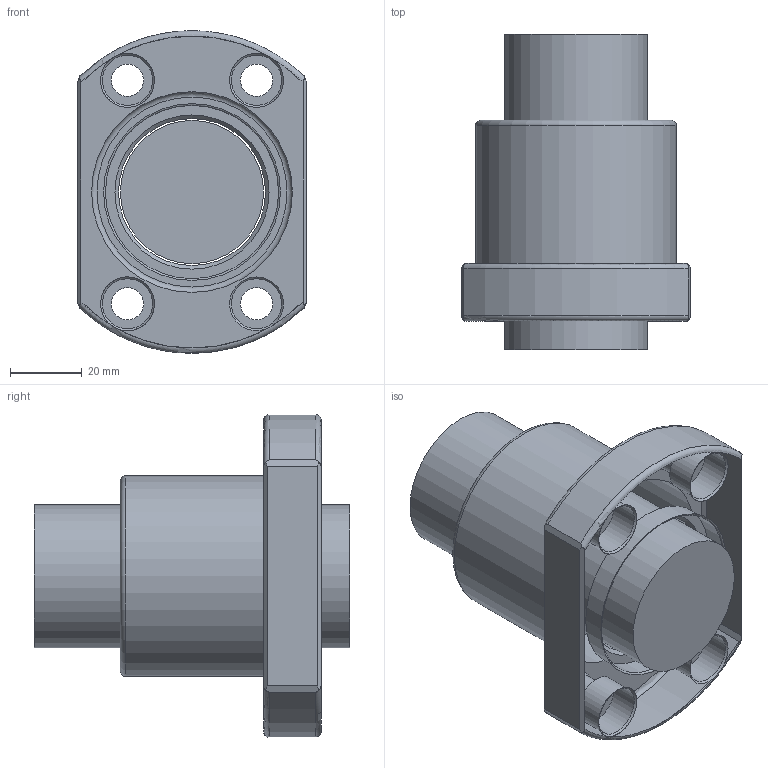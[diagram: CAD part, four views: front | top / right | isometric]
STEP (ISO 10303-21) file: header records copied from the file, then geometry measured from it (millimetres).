
FILE_DESCRIPTION(/* description */ (''),/* implementation_level */ '2;1');
FILE_NAME(/* name */ '4005T4D.prt.step',/* time_stamp */ '2008-12-05T09:36:36+08:00',/* author */ (''),/* organization */ (''),/* preprocessor_version */ 'ST-DEVELOPER v11',/* originating_system */ 'SIEMENS UGS NX 6.0',/* authorisation */ '');
FILE_SCHEMA (('AUTOMOTIVE_DESIGN { 1 0 10303 214 1 1 1 1 }'));
Length unit declared in the file: millimetre
Products named in the file (1): 4005T4D
Bounding box: 64 x 88 x 89.94 mm (x, y, z)
Volume: 204203.4 mm3; surface area: 41301.3 mm2
Topology: 2 solids, 2 shells, 53 faces, 130 edges, 84 vertices
Faces by surface type: plane 21, cylinder 15, cone 10, torus 7
Full cylindrical faces by diameter (mm): 9 x4, 14 x4, 39.95 x1, 41 x1, 48.3 x2, 56 x1
Entity records: 1558 total; most frequent: CARTESIAN_POINT 432, DIRECTION 234, ORIENTED_EDGE 182, AXIS2_PLACEMENT_3D 105, EDGE_LOOP 92, EDGE_CURVE 91, FACE_BOUND 74, VERTEX_POINT 71
